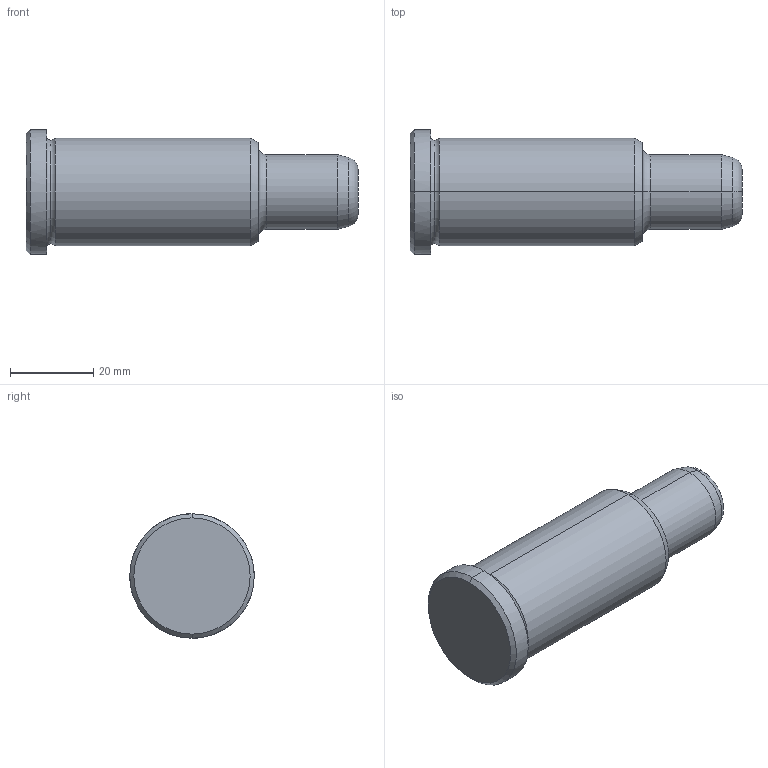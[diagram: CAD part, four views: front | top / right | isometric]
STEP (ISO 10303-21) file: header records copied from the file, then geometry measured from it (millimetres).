
FILE_DESCRIPTION(('CATIA V5 STEP Exchange'),'2;1');
FILE_NAME('C:\Users\Utente\Desktop\IO LAVORO\3D X SITO CF\X SITO\PLASTICA\351\351-18X56X80.stp','2021-08-18T13:03:50+00:00',('none'),('none'),'CATIA Version 5 Release 20 GA (IN-10)','CATIA V5 STEP AP203','none');
FILE_SCHEMA(('CONFIG_CONTROL_DESIGN'));
Length unit declared in the file: millimetre
Products named in the file (1): 351-18X56X80
Bounding box: 80 x 30 x 30 mm (x, y, z)
Volume: 36349.6 mm3; surface area: 7135.5 mm2
Topology: 1 solids, 1 shells, 24 faces, 70 edges, 50 vertices
Faces by surface type: torus 8, cone 6, cylinder 6, plane 4
Entity records: 932 total; most frequent: CARTESIAN_POINT 257, ORIENTED_EDGE 140, DIRECTION 110, AXIS2_PLACEMENT_3D 75, EDGE_CURVE 70, CIRCLE 50, VERTEX_POINT 50, EDGE_LOOP 26
